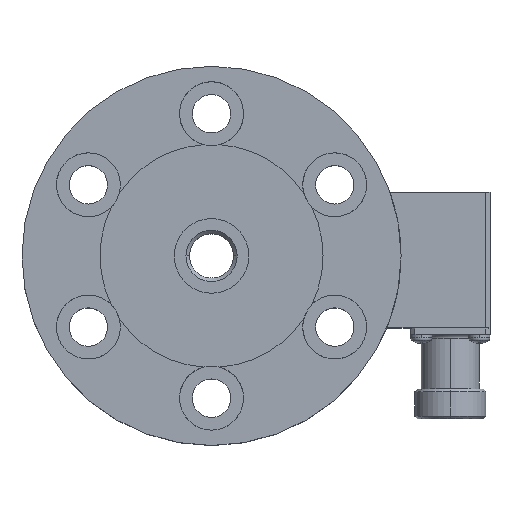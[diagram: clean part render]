
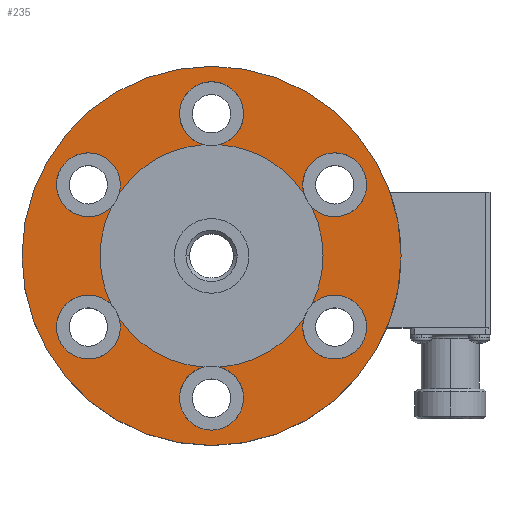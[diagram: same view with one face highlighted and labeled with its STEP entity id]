
A CAD part, top view. The second image highlights one B-rep face of the part: STEP entity #235.
In plain terms, the highlighted planar face has unit normal (0, 0, 1).
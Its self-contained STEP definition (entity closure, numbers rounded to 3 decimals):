
#235=ADVANCED_FACE('',(#595,#596),#597,.T.);
#595=FACE_BOUND('',#998,.T.);
#596=FACE_OUTER_BOUND('',#999,.T.);
#597=PLANE('',#1000);
#998=EDGE_LOOP('',(#2322,#2323,#2324,#2325,#2326,#2327,#2328,#2329,#2330,#2331,#2332,#2333,#2334,#2335,#2336,#2337,#2338,#2339,#2340,#2341));
#999=EDGE_LOOP('',(#2342,#2343));
#1000=AXIS2_PLACEMENT_3D('',#2344,#2345,#2346);
#2322=ORIENTED_EDGE('',*,*,#2649,.T.);
#2323=ORIENTED_EDGE('',*,*,#3011,.T.);
#2324=ORIENTED_EDGE('',*,*,#3012,.T.);
#2325=ORIENTED_EDGE('',*,*,#2643,.T.);
#2326=ORIENTED_EDGE('',*,*,#3013,.T.);
#2327=ORIENTED_EDGE('',*,*,#3014,.T.);
#2328=ORIENTED_EDGE('',*,*,#2637,.T.);
#2329=ORIENTED_EDGE('',*,*,#3015,.T.);
#2330=ORIENTED_EDGE('',*,*,#2633,.T.);
#2331=ORIENTED_EDGE('',*,*,#3016,.T.);
#2332=ORIENTED_EDGE('',*,*,#2627,.T.);
#2333=ORIENTED_EDGE('',*,*,#3017,.T.);
#2334=ORIENTED_EDGE('',*,*,#3018,.T.);
#2335=ORIENTED_EDGE('',*,*,#2621,.T.);
#2336=ORIENTED_EDGE('',*,*,#3019,.T.);
#2337=ORIENTED_EDGE('',*,*,#3020,.T.);
#2338=ORIENTED_EDGE('',*,*,#2615,.T.);
#2339=ORIENTED_EDGE('',*,*,#3021,.T.);
#2340=ORIENTED_EDGE('',*,*,#3022,.T.);
#2341=ORIENTED_EDGE('',*,*,#2595,.T.);
#2342=ORIENTED_EDGE('',*,*,#2581,.F.);
#2343=ORIENTED_EDGE('',*,*,#3023,.F.);
#2344=CARTESIAN_POINT('',(22.225,0.,25.4));
#2345=DIRECTION('',(0.,0.,1.0));
#2346=DIRECTION('',(-1.0,0.,0.));
#2581=EDGE_CURVE('',#3053,#3056,#3057,.T.);
#2595=EDGE_CURVE('',#3078,#3082,#3084,.T.);
#2615=EDGE_CURVE('',#3120,#3117,#3121,.T.);
#2621=EDGE_CURVE('',#3132,#3129,#3133,.T.);
#2627=EDGE_CURVE('',#3144,#3141,#3145,.T.);
#2633=EDGE_CURVE('',#3156,#3153,#3157,.T.);
#2637=EDGE_CURVE('',#3164,#3161,#3165,.T.);
#2643=EDGE_CURVE('',#3176,#3173,#3177,.T.);
#2649=EDGE_CURVE('',#3082,#3185,#3188,.T.);
#3011=EDGE_CURVE('',#3185,#3774,#3776,.T.);
#3012=EDGE_CURVE('',#3774,#3176,#3777,.T.);
#3013=EDGE_CURVE('',#3173,#3778,#3779,.T.);
#3014=EDGE_CURVE('',#3778,#3164,#3780,.T.);
#3015=EDGE_CURVE('',#3161,#3156,#3781,.T.);
#3016=EDGE_CURVE('',#3153,#3144,#3782,.T.);
#3017=EDGE_CURVE('',#3141,#3783,#3784,.T.);
#3018=EDGE_CURVE('',#3783,#3132,#3785,.T.);
#3019=EDGE_CURVE('',#3129,#3786,#3787,.T.);
#3020=EDGE_CURVE('',#3786,#3120,#3788,.T.);
#3021=EDGE_CURVE('',#3117,#3789,#3790,.T.);
#3022=EDGE_CURVE('',#3789,#3078,#3791,.T.);
#3023=EDGE_CURVE('',#3056,#3053,#3792,.T.);
#3053=VERTEX_POINT('',#3826);
#3056=VERTEX_POINT('',#3830);
#3057=CIRCLE('',#3831,44.45);
#3078=VERTEX_POINT('',#3857);
#3082=VERTEX_POINT('',#3862);
#3084=CIRCLE('',#3865,26.15);
#3117=VERTEX_POINT('',#3908);
#3120=VERTEX_POINT('',#3912);
#3121=CIRCLE('',#3913,7.5);
#3129=VERTEX_POINT('',#3923);
#3132=VERTEX_POINT('',#3927);
#3133=CIRCLE('',#3928,7.5);
#3141=VERTEX_POINT('',#3938);
#3144=VERTEX_POINT('',#3942);
#3145=CIRCLE('',#3943,7.5);
#3153=VERTEX_POINT('',#3953);
#3156=VERTEX_POINT('',#3957);
#3157=CIRCLE('',#3958,26.15);
#3161=VERTEX_POINT('',#3963);
#3164=VERTEX_POINT('',#3967);
#3165=CIRCLE('',#3968,7.5);
#3173=VERTEX_POINT('',#3978);
#3176=VERTEX_POINT('',#3982);
#3177=CIRCLE('',#3983,7.5);
#3185=VERTEX_POINT('',#3993);
#3188=CIRCLE('',#3997,7.5);
#3774=VERTEX_POINT('',#5263);
#3776=CIRCLE('',#5266,7.5);
#3777=CIRCLE('',#5267,26.15);
#3778=VERTEX_POINT('',#5268);
#3779=CIRCLE('',#5269,7.5);
#3780=CIRCLE('',#5270,26.15);
#3781=CIRCLE('',#5271,7.5);
#3782=CIRCLE('',#5272,26.15);
#3783=VERTEX_POINT('',#5273);
#3784=CIRCLE('',#5274,7.5);
#3785=CIRCLE('',#5275,26.15);
#3786=VERTEX_POINT('',#5276);
#3787=CIRCLE('',#5277,7.5);
#3788=CIRCLE('',#5278,26.15);
#3789=VERTEX_POINT('',#5279);
#3790=CIRCLE('',#5280,7.5);
#3791=CIRCLE('',#5281,26.15);
#3792=CIRCLE('',#5282,44.45);
#3826=CARTESIAN_POINT('',(44.45,0.,25.4));
#3830=CARTESIAN_POINT('',(-44.45,0.,25.4));
#3831=AXIS2_PLACEMENT_3D('',#5321,#5322,#5323);
#3857=CARTESIAN_POINT('',(-26.15,0.,25.4));
#3862=CARTESIAN_POINT('',(-23.518,11.433,25.4));
#3865=AXIS2_PLACEMENT_3D('',#5349,#5350,#5351);
#3908=CARTESIAN_POINT('',(-35.377,-20.425,25.4));
#3912=CARTESIAN_POINT('',(-21.66,-14.651,25.4));
#3913=AXIS2_PLACEMENT_3D('',#5387,#5388,#5389);
#3923=CARTESIAN_POINT('',(0.,-40.85,25.4));
#3927=CARTESIAN_POINT('',(1.858,-26.084,25.4));
#3928=AXIS2_PLACEMENT_3D('',#5399,#5400,#5401);
#3938=CARTESIAN_POINT('',(35.377,-20.425,25.4));
#3942=CARTESIAN_POINT('',(23.518,-11.433,25.4));
#3943=AXIS2_PLACEMENT_3D('',#5411,#5412,#5413);
#3953=CARTESIAN_POINT('',(26.15,0.,25.4));
#3957=CARTESIAN_POINT('',(23.518,11.433,25.4));
#3958=AXIS2_PLACEMENT_3D('',#5423,#5424,#5425);
#3963=CARTESIAN_POINT('',(35.377,20.425,25.4));
#3967=CARTESIAN_POINT('',(21.66,14.651,25.4));
#3968=AXIS2_PLACEMENT_3D('',#5431,#5432,#5433);
#3978=CARTESIAN_POINT('',(0.,40.85,25.4));
#3982=CARTESIAN_POINT('',(-1.858,26.084,25.4));
#3983=AXIS2_PLACEMENT_3D('',#5443,#5444,#5445);
#3993=CARTESIAN_POINT('',(-35.377,20.425,25.4));
#3997=AXIS2_PLACEMENT_3D('',#5455,#5456,#5457);
#5263=CARTESIAN_POINT('',(-21.66,14.651,25.4));
#5266=AXIS2_PLACEMENT_3D('',#6047,#6048,#6049);
#5267=AXIS2_PLACEMENT_3D('',#6050,#6051,#6052);
#5268=CARTESIAN_POINT('',(1.858,26.084,25.4));
#5269=AXIS2_PLACEMENT_3D('',#6053,#6054,#6055);
#5270=AXIS2_PLACEMENT_3D('',#6056,#6057,#6058);
#5271=AXIS2_PLACEMENT_3D('',#6059,#6060,#6061);
#5272=AXIS2_PLACEMENT_3D('',#6062,#6063,#6064);
#5273=CARTESIAN_POINT('',(21.66,-14.651,25.4));
#5274=AXIS2_PLACEMENT_3D('',#6065,#6066,#6067);
#5275=AXIS2_PLACEMENT_3D('',#6068,#6069,#6070);
#5276=CARTESIAN_POINT('',(-1.858,-26.084,25.4));
#5277=AXIS2_PLACEMENT_3D('',#6071,#6072,#6073);
#5278=AXIS2_PLACEMENT_3D('',#6074,#6075,#6076);
#5279=CARTESIAN_POINT('',(-23.518,-11.433,25.4));
#5280=AXIS2_PLACEMENT_3D('',#6077,#6078,#6079);
#5281=AXIS2_PLACEMENT_3D('',#6080,#6081,#6082);
#5282=AXIS2_PLACEMENT_3D('',#6083,#6084,#6085);
#5321=CARTESIAN_POINT('',(0.0,0.,25.4));
#5322=DIRECTION('',(0.0,0.,-1.0));
#5323=DIRECTION('',(1.0,0.0,0.0));
#5349=CARTESIAN_POINT('',(0.0,0.,25.4));
#5350=DIRECTION('',(0.,0.,-1.0));
#5351=DIRECTION('',(1.0,0.,0.));
#5387=CARTESIAN_POINT('',(-28.882,-16.675,25.4));
#5388=DIRECTION('',(0.,0.,-1.0));
#5389=DIRECTION('',(-0.866,-0.5,0.));
#5399=CARTESIAN_POINT('',(0.,-33.35,25.4));
#5400=DIRECTION('',(0.,0.,-1.0));
#5401=DIRECTION('',(0.,-1.0,0.));
#5411=CARTESIAN_POINT('',(28.882,-16.675,25.4));
#5412=DIRECTION('',(0.,0.,-1.0));
#5413=DIRECTION('',(0.866,-0.5,0.));
#5423=CARTESIAN_POINT('',(0.0,0.,25.4));
#5424=DIRECTION('',(0.,0.,-1.0));
#5425=DIRECTION('',(1.0,0.,0.));
#5431=CARTESIAN_POINT('',(28.882,16.675,25.4));
#5432=DIRECTION('',(0.,0.,-1.0));
#5433=DIRECTION('',(0.866,0.5,0.));
#5443=CARTESIAN_POINT('',(0.,33.35,25.4));
#5444=DIRECTION('',(0.,0.,-1.0));
#5445=DIRECTION('',(0.,1.0,0.));
#5455=CARTESIAN_POINT('',(-28.882,16.675,25.4));
#5456=DIRECTION('',(0.,0.,-1.0));
#5457=DIRECTION('',(-0.866,0.5,0.));
#6047=CARTESIAN_POINT('',(-28.882,16.675,25.4));
#6048=DIRECTION('',(0.,0.,-1.0));
#6049=DIRECTION('',(-0.866,0.5,0.));
#6050=CARTESIAN_POINT('',(0.0,0.,25.4));
#6051=DIRECTION('',(0.,0.,-1.0));
#6052=DIRECTION('',(1.0,0.,0.));
#6053=CARTESIAN_POINT('',(0.,33.35,25.4));
#6054=DIRECTION('',(0.,0.,-1.0));
#6055=DIRECTION('',(0.,1.0,0.));
#6056=CARTESIAN_POINT('',(0.0,0.,25.4));
#6057=DIRECTION('',(0.,0.,-1.0));
#6058=DIRECTION('',(1.0,0.,0.));
#6059=CARTESIAN_POINT('',(28.882,16.675,25.4));
#6060=DIRECTION('',(0.,0.,-1.0));
#6061=DIRECTION('',(0.866,0.5,0.));
#6062=CARTESIAN_POINT('',(0.0,0.,25.4));
#6063=DIRECTION('',(0.,0.,-1.0));
#6064=DIRECTION('',(1.0,0.,0.));
#6065=CARTESIAN_POINT('',(28.882,-16.675,25.4));
#6066=DIRECTION('',(0.,0.,-1.0));
#6067=DIRECTION('',(0.866,-0.5,0.));
#6068=CARTESIAN_POINT('',(0.0,0.,25.4));
#6069=DIRECTION('',(0.,0.,-1.0));
#6070=DIRECTION('',(1.0,0.,0.));
#6071=CARTESIAN_POINT('',(0.,-33.35,25.4));
#6072=DIRECTION('',(0.,0.,-1.0));
#6073=DIRECTION('',(0.,-1.0,0.));
#6074=CARTESIAN_POINT('',(0.0,0.,25.4));
#6075=DIRECTION('',(0.,0.,-1.0));
#6076=DIRECTION('',(1.0,0.,0.));
#6077=CARTESIAN_POINT('',(-28.882,-16.675,25.4));
#6078=DIRECTION('',(0.,0.,-1.0));
#6079=DIRECTION('',(-0.866,-0.5,0.));
#6080=CARTESIAN_POINT('',(0.0,0.,25.4));
#6081=DIRECTION('',(0.,0.,-1.0));
#6082=DIRECTION('',(1.0,0.,0.));
#6083=CARTESIAN_POINT('',(0.0,0.,25.4));
#6084=DIRECTION('',(0.0,0.,-1.0));
#6085=DIRECTION('',(1.0,0.0,0.0));
